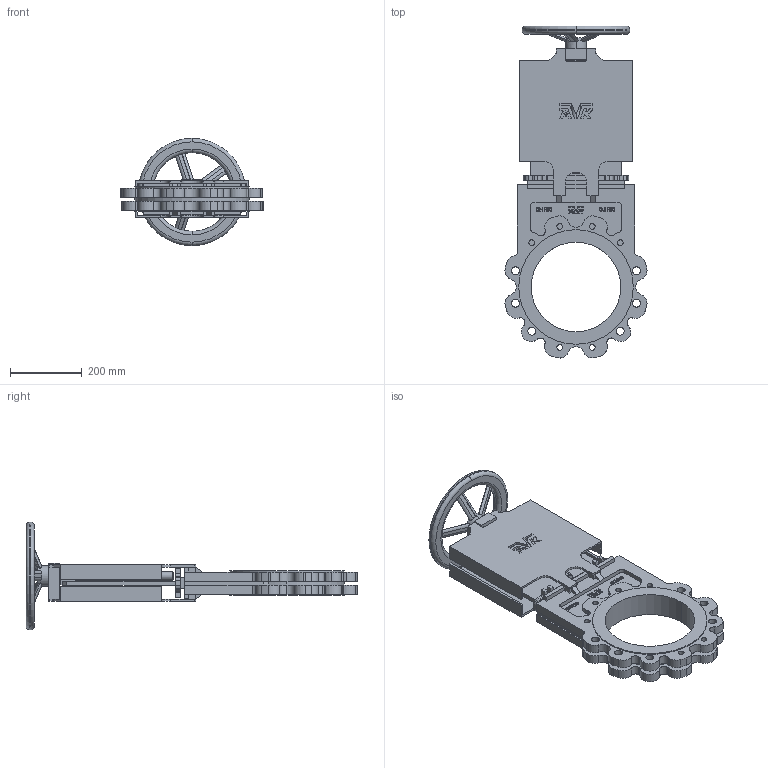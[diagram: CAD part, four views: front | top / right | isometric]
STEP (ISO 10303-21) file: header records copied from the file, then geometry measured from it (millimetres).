
FILE_DESCRIPTION (( 'STEP AP203' ), '1' );
FILE_NAME ('70225010034.STEP', '2017-03-22T17:27:16', ( '' ), ( '' ), 'SwSTEP 2.0', 'SolidWorks 2016', '' );
FILE_SCHEMA (( 'CONFIG_CONTROL_DESIGN' ));
Products named in the file (1): 70225010034
Bounding box: 396.9 x 927.39 x 300 mm (x, y, z)
Volume: 10092224.6 mm3; surface area: 1344239.6 mm2
Topology: 1 solids, 1 shells, 1259 faces, 3601 edges, 2374 vertices
Faces by surface type: plane 604, cylinder 543, bspline 98, torus 12, cone 2
Entity records: 48071 total; most frequent: CARTESIAN_POINT 14818, ORIENTED_EDGE 7170, DIRECTION 6734, EDGE_CURVE 3585, VERTEX_POINT 2371, AXIS2_PLACEMENT_3D 2251, LINE 2232, VECTOR 2232
